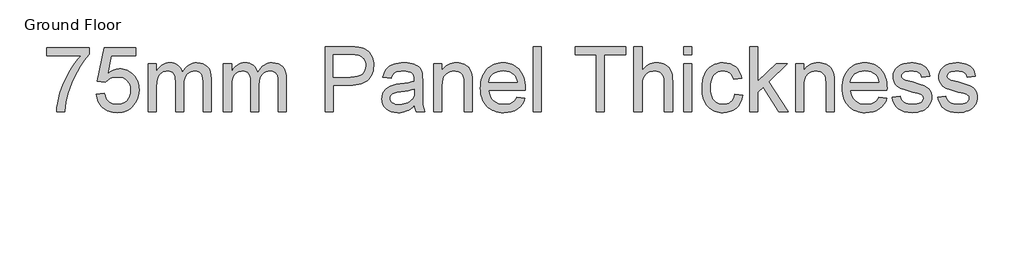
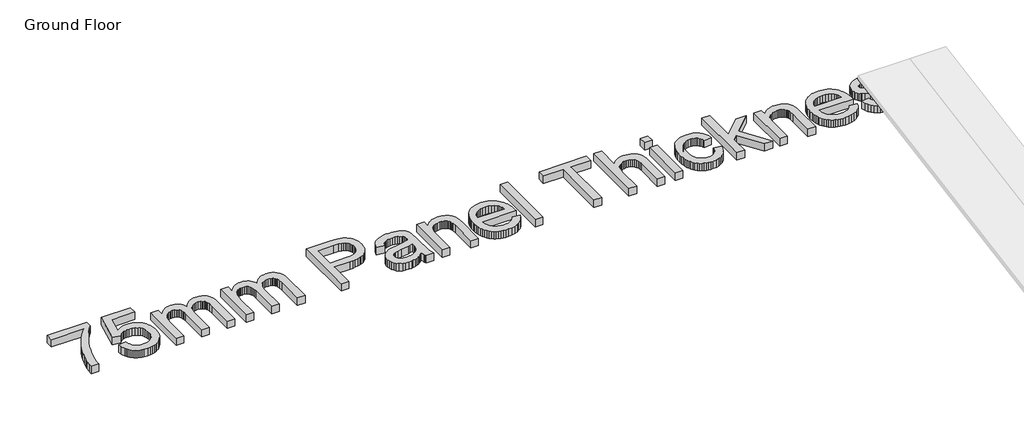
# One storey, part 3 of 5: 1 proxy.
"""IFC4 building model written with IfcOpenShell, lengths in millimetres."""

from ifc_helpers import new_model, si_unit, origin, origin_with_axes, place, context, project, spatial, polyline, outline, extrude, element, save

model = new_model("IFC4")

# Units and contexts
model_context = context("Model", 3, world=origin())
ifc_project = project(units=[si_unit("LENGTHUNIT", "METRE", prefix="MILLI")], contexts=[model_context])

# Site, building, storey
site = spatial("IfcSite", under=ifc_project)
building = spatial("IfcBuilding", under=site)
storey = spatial("IfcBuildingStorey", under=building, Name="Ground Floor", Elevation=0.0)

# Proxy
placement = place(None, origin())
element("IfcBuildingElementProxy", 1, Name="1200mm Arial", ObjectType="1200mm Arial", at=placement, inside=storey, context=model_context, shape_type="SweptSolid", body=[
    extrude(outline(polyline([(-16682.9165846, -36478.8663729), (-16682.9165846, -36331.957282), (-15911.6438573, -36331.957282), (-15911.6438573, -36450.7470547), (-15966.743733, -36515.584679), (-16021.5746102, -36589.87312), (-16076.1364887, -36673.6123778), (-16130.4293687, -36766.8024524), (-16181.512199, -36865.408365), (-16226.4439284, -36965.3951371), (-16265.2245569, -37066.7627685), (-16297.8540846, -37169.5112592), (-16317.2937153, -37244.1314652), (-16332.8597664, -37322.2307195), (-16344.552238, -37403.809022), (-16352.3711301, -37488.8663729), (-16499.280221, -37488.8663729), (-16494.662412, -37416.7209538), (-16483.3913715, -37337.4381058), (-16465.4670995, -37251.0178288), (-16440.889596, -37157.4601229), (-16409.9457927, -37061.2034645), (-16372.9226215, -36966.6863302), (-16329.8200825, -36873.9087202), (-16280.6381755, -36782.8706342), (-16227.5916556, -36696.244125), (-16172.8952778, -36616.701245), (-16116.549042, -36544.2419943), (-16058.5529482, -36478.8663729), (-16682.9165846, -36478.8663729)])), origin_with_axes(), (0.0, 0.0, 1.0), 150.0),
    extrude(outline(polyline([(-15783.0984028, -37176.6845547), (-15636.1893119, -37158.3209183), (-15625.2141698, -37205.5481023), (-15609.217721, -37246.5165859), (-15588.1999653, -37281.2263693), (-15562.1609028, -37309.6774524), (-15531.1543332, -37331.8339687), (-15495.2340562, -37347.6600518), (-15454.4000718, -37357.1557017), (-15408.6523801, -37360.3209183), (-15352.7006755, -37355.9183082), (-15303.3484028, -37342.710478), (-15260.5955619, -37320.6974275), (-15224.4421528, -37289.879157), (-15195.6951713, -37251.7799915), (-15175.161613, -37207.9242564), (-15162.8414781, -37158.3119517), (-15158.7347664, -37102.9430774), (-15162.5814461, -37050.6138871), (-15174.1214852, -37004.095066), (-15193.3548836, -36963.3866143), (-15220.2816414, -36928.488532), (-15254.9914248, -36900.4947464), (-15297.5738999, -36880.4991854), (-15348.0290668, -36868.5018487), (-15406.3569255, -36864.5027365), (-15443.6849617, -36866.0987947), (-15477.6236159, -36870.8869695), (-15508.1728879, -36878.8672606), (-15535.3327778, -36890.0396683), (-15581.4212011, -36919.3784467), (-15617.8256755, -36956.3209183), (-15764.7347664, -36937.957282), (-15636.1893119, -36331.957282), (-15066.9165846, -36331.957282), (-15066.9165846, -36478.8663729), (-15517.3995391, -36478.8663729), (-15580.2376073, -36802.5254638), (-15528.3926144, -36765.3677933), (-15475.2922948, -36738.8266001), (-15420.9366485, -36722.9018842), (-15365.3256755, -36717.5936456), (-15328.8248099, -36719.2390202), (-15293.78102, -36724.1751442), (-15260.1943057, -36732.4020174), (-15228.064667, -36743.9196399), (-15197.392104, -36758.7280117), (-15168.1766166, -36776.8271328), (-15140.4182048, -36798.2170032), (-15114.1168687, -36822.8976229), (-15090.1423703, -36850.1651122), (-15069.3644717, -36879.3155916), (-15051.7831728, -36910.3490611), (-15037.3984738, -36943.2655206), (-15026.2103746, -36978.0649702), (-15018.2188751, -37014.7474098), (-15013.4239754, -37053.3128395), (-15011.8256755, -37093.7612592), (-15017.5822451, -37169.869924), (-15034.8519539, -37240.6703501), (-15063.6348019, -37306.1625376), (-15103.9307891, -37366.3464865), (-15133.1799014, -37399.3660621), (-15164.9755335, -37427.9830277), (-15199.3176855, -37452.1973832), (-15236.2063573, -37472.0091285), (-15275.6415491, -37487.4182638), (-15317.6232607, -37498.4247891), (-15362.1514923, -37505.0287042), (-15409.2262437, -37507.2300092), (-15485.03901, -37501.5720724), (-15520.1948827, -37494.4996514), (-15553.5170818, -37484.5982621), (-15585.0056072, -37471.8679043), (-15614.6604589, -37456.3085781), (-15642.481637, -37437.9202835), (-15668.4691414, -37416.7030206), (-15692.1970578, -37393.1499533), (-15713.2394717, -37367.7542457), (-15731.5963831, -37340.5158979), (-15747.267792, -37311.4349098), (-15770.5541024, -37247.7450128), (-15783.0984028, -37176.6845547)])), origin_with_axes(), (0.0, 0.0, 1.0), 150.0),
    extrude(outline(polyline([(-14846.5529482, -37488.8663729), (-14846.5529482, -36625.7754638), (-14699.6438573, -36625.7754638), (-14699.6438573, -36767.8067138), (-14679.1282323, -36733.4197287), (-14655.4563573, -36702.5655916), (-14628.6282323, -36675.2443025), (-14598.6438573, -36651.4558615), (-14565.9874298, -36632.1865966), (-14531.1431471, -36618.4228359), (-14494.1110093, -36610.1645795), (-14454.8910164, -36607.4118274), (-14412.0126428, -36610.2183793), (-14373.1871812, -36618.6380348), (-14338.4146315, -36632.670794), (-14307.6949937, -36652.316657), (-14281.117934, -36677.0196932), (-14258.7731187, -36706.2239723), (-14240.6605477, -36739.9294943), (-14226.780221, -36778.1362592), (-14200.9473907, -36738.1227205), (-14173.2315704, -36703.4443203), (-14143.63276, -36674.1010586), (-14112.1509596, -36650.0929354), (-14078.7861691, -36631.4199506), (-14043.5383886, -36618.0821044), (-14006.407618, -36610.0793967), (-13967.3938573, -36607.4118274), (-13908.5818012, -36611.850304), (-13856.9609738, -36625.1657337), (-13812.5313751, -36647.3581165), (-13775.2930051, -36678.4274524), (-13745.8555938, -36718.7324062), (-13724.8288715, -36768.6316427), (-13712.2128382, -36828.1251619), (-13708.0074937, -36897.2129638), (-13708.0074937, -37488.8663729), (-13854.9165846, -37488.8663729), (-13854.9165846, -36960.3379638), (-13858.3238999, -36887.0627507), (-13868.545846, -36837.6746115), (-13876.741336, -36819.8579389), (-13887.6985448, -36803.8525234), (-13901.4174724, -36789.658365), (-13917.8981187, -36777.2754638), (-13936.5397203, -36767.2328501), (-13956.7415136, -36760.0595547), (-14001.8256755, -36754.3209183), (-14043.457689, -36757.9972322), (-14081.4133886, -36769.026174), (-14115.6927742, -36787.4077436), (-14146.295846, -36813.141941), (-14171.4651464, -36846.9819623), (-14189.4432181, -36889.6810035), (-14200.2300612, -36941.2390646), (-14203.8256755, -37001.6561456), (-14203.8256755, -37488.8663729), (-14350.7347664, -37488.8663729), (-14350.7347664, -36943.9828501), (-14352.8598552, -36899.4725518), (-14359.2351215, -36860.9160888), (-14369.8605654, -36828.3134609), (-14384.7361869, -36801.6646683), (-14404.4537828, -36780.9517777), (-14429.6051499, -36766.1568558), (-14460.1902884, -36757.2799027), (-14496.2091982, -36754.3209183), (-14525.0637792, -36756.2935746), (-14552.8064994, -36762.2115433), (-14579.4373588, -36772.0748246), (-14604.9563573, -36785.8834183), (-14628.1978346, -36803.4938587), (-14647.9961301, -36824.7626797), (-14664.3512437, -36849.6898814), (-14677.2631755, -36878.2754638), (-14687.0547238, -36912.0437521), (-14694.0486869, -36952.5190717), (-14699.6438573, -37053.5908047), (-14699.6438573, -37488.8663729), (-14846.5529482, -37488.8663729)])), origin_with_axes(), (0.0, 0.0, 1.0), 150.0),
    extrude(outline(polyline([(-13487.6438573, -37488.8663729), (-13487.6438573, -36625.7754638), (-13340.7347664, -36625.7754638), (-13340.7347664, -36767.8067138), (-13320.2191414, -36733.4197287), (-13296.5472664, -36702.5655916), (-13269.7191414, -36675.2443025), (-13239.7347664, -36651.4558615), (-13207.0783389, -36632.1865966), (-13172.2340562, -36618.4228359), (-13135.2019184, -36610.1645795), (-13095.9819255, -36607.4118274), (-13053.1035519, -36610.2183793), (-13014.2780903, -36618.6380348), (-12979.5055406, -36632.670794), (-12948.7859028, -36652.316657), (-12922.2088431, -36677.0196932), (-12899.8640278, -36706.2239723), (-12881.7514568, -36739.9294943), (-12867.8711301, -36778.1362592), (-12842.0382998, -36738.1227205), (-12814.3224795, -36703.4443203), (-12784.7236691, -36674.1010586), (-12753.2418687, -36650.0929354), (-12719.8770782, -36631.4199506), (-12684.6292977, -36618.0821044), (-12647.4985271, -36610.0793967), (-12608.4847664, -36607.4118274), (-12549.6727103, -36611.850304), (-12498.0518829, -36625.1657337), (-12453.6222842, -36647.3581165), (-12416.3839141, -36678.4274524), (-12386.9465029, -36718.7324062), (-12365.9197806, -36768.6316427), (-12353.3037472, -36828.1251619), (-12349.0984028, -36897.2129638), (-12349.0984028, -37488.8663729), (-12496.0074937, -37488.8663729), (-12496.0074937, -36960.3379638), (-12499.414809, -36887.0627507), (-12509.6367551, -36837.6746115), (-12517.8322451, -36819.8579389), (-12528.7894539, -36803.8525234), (-12542.5083815, -36789.658365), (-12558.9890278, -36777.2754638), (-12577.6306293, -36767.2328501), (-12597.8324227, -36760.0595547), (-12642.9165846, -36754.3209183), (-12684.5485981, -36757.9972322), (-12722.5042977, -36769.026174), (-12756.7836833, -36787.4077436), (-12787.3867551, -36813.141941), (-12812.5560555, -36846.9819623), (-12830.5341272, -36889.6810035), (-12841.3209703, -36941.2390646), (-12844.9165846, -37001.6561456), (-12844.9165846, -37488.8663729), (-12991.8256755, -37488.8663729), (-12991.8256755, -36943.9828501), (-12993.9507643, -36899.4725518), (-13000.3260306, -36860.9160888), (-13010.9514745, -36828.3134609), (-13025.827096, -36801.6646683), (-13045.5446918, -36780.9517777), (-13070.696059, -36766.1568558), (-13101.2811975, -36757.2799027), (-13137.3001073, -36754.3209183), (-13166.1546883, -36756.2935746), (-13193.8974085, -36762.2115433), (-13220.5282678, -36772.0748246), (-13246.0472664, -36785.8834183), (-13269.2887437, -36803.4938587), (-13289.0870391, -36824.7626797), (-13305.4421528, -36849.6898814), (-13318.3540846, -36878.2754638), (-13328.1456329, -36912.0437521), (-13335.139596, -36952.5190717), (-13340.7347664, -37053.5908047), (-13340.7347664, -37488.8663729), (-13487.6438573, -37488.8663729)])), origin_with_axes(), (0.0, 0.0, 1.0), 150.0),
    extrude(outline(polyline([(-11651.280221, -37488.8663729), (-11651.280221, -36313.5936456), (-11215.717721, -36313.5936456), (-11114.2873232, -36316.3912308), (-11040.1154482, -36324.7839865), (-10999.2366308, -36333.5981733), (-10961.8189284, -36345.6941427), (-10927.862341, -36361.0718949), (-10897.3668687, -36379.7314297), (-10870.0097132, -36402.0583118), (-10845.4680761, -36428.4381058), (-10823.7419575, -36458.8708118), (-10804.8313573, -36493.3564297), (-10789.5163715, -36530.7561989), (-10778.577096, -36569.9313587), (-10772.0135306, -36610.8819091), (-10769.8256755, -36653.6078501), (-10775.7346776, -36725.7532692), (-10783.1209303, -36759.6605401), (-10793.461684, -36792.1241854), (-10806.7569388, -36823.1442049), (-10823.0066947, -36852.7205987), (-10842.2109516, -36880.8533668), (-10864.3697096, -36907.5425092), (-10890.3841139, -36931.8868807), (-10921.1553097, -36952.9853359), (-10956.6832971, -36970.837875), (-10996.9680761, -36985.4444979), (-11042.0096466, -36996.8052045), (-11091.8080086, -37004.919995), (-11146.3631622, -37009.7888693), (-11205.6751073, -37011.4118274), (-11504.3711301, -37011.4118274), (-11504.3711301, -37488.8663729), (-11651.280221, -37488.8663729)]), holes=[polyline([(-11504.3711301, -36864.5027365), (-11197.0671528, -36864.5027365), (-11126.4101926, -36861.1312876), (-11066.8001073, -36851.016941), (-11018.2368971, -36834.1596967), (-10980.7205619, -36810.5595547), (-10952.7267764, -36780.8441783), (-10932.7312153, -36745.6412308), (-10920.7338786, -36704.9507123), (-10916.7347664, -36658.7726229), (-10919.0929873, -36624.4842706), (-10926.1676499, -36592.7783047), (-10937.9587543, -36563.6547251), (-10954.4663005, -36537.113532), (-10974.8115597, -36514.0155206), (-10998.1158034, -36495.2214865), (-11024.3790313, -36480.7314297), (-11053.6012437, -36470.5453501), (-11110.2702778, -36463.0133899), (-11200.5103346, -36460.5027365), (-11504.3711301, -36460.5027365), (-11504.3711301, -36864.5027365)])]), origin_with_axes(), (0.0, 0.0, 1.0), 150.0),
    extrude(outline(polyline([(-10035.280221, -37378.6845547), (-10070.115537, -37411.3768487), (-10105.470917, -37438.8685035), (-10141.3463609, -37461.1595192), (-10177.7418687, -37478.2498956), (-10215.0699049, -37490.9286953), (-10253.742934, -37499.9849808), (-10293.7609561, -37505.4187521), (-10335.123971, -37507.2300092), (-10400.5354589, -37502.8722322), (-10457.8949227, -37489.7989013), (-10507.2023623, -37468.0100163), (-10548.4577778, -37437.5055774), (-10581.0335058, -37400.2223743), (-10604.3018829, -37358.0971967), (-10618.2629092, -37311.1300447), (-10622.9165846, -37259.3209183), (-10621.1591272, -37228.1708828), (-10615.8867551, -37198.4196399), (-10607.0994681, -37170.0671896), (-10594.7972664, -37143.113532), (-10579.6347132, -37118.1504638), (-10562.2663715, -37095.769782), (-10542.6922416, -37075.9714865), (-10520.9123232, -37058.7555774), (-10472.3132465, -37030.7797251), (-10418.0472664, -37010.551032), (-10365.1800789, -36999.2889581), (-10290.936471, -36988.457282), (-10140.7276641, -36965.2158047), (-10082.7315704, -36952.088674), (-10036.1410164, -36937.957282), (-10035.280221, -36905.2470547), (-10037.8088076, -36869.6316427), (-10045.3945676, -36839.6831342), (-10058.0375008, -36815.4015291), (-10075.7376073, -36796.7868274), (-10106.3317124, -36778.2079922), (-10143.5969823, -36764.9373956), (-10187.533417, -36756.9750376), (-10238.1410164, -36754.3209183), (-10285.1978346, -36756.0873423), (-10325.655221, -36761.3866143), (-10359.5131755, -36770.2187344), (-10386.7716982, -36782.5837024), (-10409.1703133, -36799.4499133), (-10428.4485448, -36821.7857621), (-10444.6063928, -36849.5912486), (-10457.6438573, -36882.8663729), (-10604.5529482, -36864.5027365), (-10593.371574, -36822.1802933), (-10579.0518829, -36784.1618274), (-10561.5938751, -36750.4473388), (-10540.9975505, -36721.0368274), (-10516.3752139, -36695.3384964), (-10486.8391698, -36672.760549), (-10452.3894184, -36653.3029851), (-10413.0259596, -36636.9658047), (-10369.5468225, -36624.0359396), (-10322.7500363, -36614.8003217), (-10272.6356009, -36609.258951), (-10219.2035164, -36607.4118274), (-10166.9729589, -36609.0437521), (-10119.8892409, -36613.9395263), (-10077.9523623, -36622.0991498), (-10041.1623232, -36633.5226229), (-10009.2142586, -36647.4119162), (-9981.8033034, -36662.9690007), (-9958.9294575, -36680.1938764), (-9940.592721, -36699.0865433), (-9925.7260661, -36720.1132656), (-9913.2624653, -36743.7403075), (-9895.5444255, -36798.7953501), (-9890.1644539, -36849.582282), (-9888.3711301, -36927.3408047), (-9888.3711301, -37110.1163729), (-9886.5060732, -37269.3276655), (-9880.9109028, -37365.3422251), (-9869.8640278, -37428.4313587), (-9851.6438573, -37488.8663729), (-9998.5529482, -37488.8663729), (-10011.608346, -37464.3337024), (-10022.0813573, -37437.7925092), (-10035.280221, -37378.6845547)]), holes=[polyline([(-10035.280221, -37084.8663729), (-10079.6829198, -37097.5810391), (-10133.9847664, -37109.3273104), (-10272.2859028, -37129.9146683), (-10348.502167, -37141.1767422), (-10398.6793687, -37153.7300092), (-10431.5689284, -37170.0133899), (-10455.9222664, -37192.4658047), (-10470.9861869, -37219.3656626), (-10476.0074937, -37248.9913729), (-10473.2726748, -37271.8203856), (-10465.0682181, -37292.6767422), (-10451.3941237, -37311.5604425), (-10432.2503914, -37328.4714865), (-10407.8163538, -37342.4056129), (-10378.2713431, -37352.3585604), (-10343.6153595, -37358.3303288), (-10303.8484028, -37360.3209183), (-10263.2475505, -37358.1240966), (-10224.9421528, -37351.5336314), (-10188.9322096, -37340.5495227), (-10155.217721, -37325.1717706), (-10124.8029482, -37306.6736349), (-10098.6921528, -37286.3283757), (-10076.8853346, -37264.1359929), (-10059.3824937, -37240.0964865), (-10049.2143474, -37218.5766001), (-10041.9513857, -37192.4658047), (-10037.5936088, -37161.7641001), (-10036.1410164, -37126.4714865), (-10035.280221, -37084.8663729)])]), origin_with_axes(), (0.0, 0.0, 1.0), 150.0),
    extrude(outline(polyline([(-9686.3711301, -37488.8663729), (-9686.3711301, -36625.7754638), (-9539.4620391, -36625.7754638), (-9539.4620391, -36746.2868274), (-9515.2252671, -36713.7379993), (-9488.424042, -36685.5290149), (-9459.0583637, -36661.6598743), (-9427.1282323, -36642.1305774), (-9392.6336478, -36626.9411243), (-9355.5746102, -36616.0915149), (-9315.9511194, -36609.5817493), (-9273.7631755, -36607.4118274), (-9236.7938041, -36609.1603182), (-9201.3487579, -36614.4057905), (-9167.428037, -36623.1482443), (-9135.0316414, -36635.3876797), (-9105.387998, -36650.4695334), (-9079.7255335, -36667.7392422), (-9058.044248, -36687.1968061), (-9040.3441414, -36708.8422251), (-9013.6236159, -36758.5890291), (-8996.3001073, -36816.8720547), (-8990.489738, -36872.6085604), (-8988.5529482, -36958.9033047), (-8988.5529482, -37488.8663729), (-9135.4620391, -37488.8663729), (-9135.4620391, -36978.7016001), (-9139.6942835, -36902.7364013), (-9144.9845889, -36872.9851584), (-9152.3910164, -36848.7214865), (-9162.4784632, -36828.2865611), (-9175.8118261, -36810.0215575), (-9192.3911052, -36793.9264758), (-9212.2163005, -36780.001316), (-9234.605949, -36768.766142), (-9258.8785874, -36760.7410177), (-9285.034216, -36755.9259432), (-9313.0728346, -36754.3209183), (-9357.6817657, -36757.9254993), (-9399.1165136, -36768.7392422), (-9437.3770782, -36786.762147), (-9472.4634596, -36811.9942138), (-9488.1662517, -36828.0310124), (-9501.7753382, -36847.3047606), (-9513.290719, -36869.8154584), (-9522.7123943, -36895.5631058), (-9535.2746279, -36956.7692493), (-9539.4620391, -37030.923191), (-9539.4620391, -37488.8663729), (-9686.3711301, -37488.8663729)])), origin_with_axes(), (0.0, 0.0, 1.0), 150.0),
    extrude(outline(polyline([(-8182.2745391, -37231.7754638), (-8038.2347664, -37250.1391001), (-8060.3195498, -37307.8303288), (-8090.133559, -37358.6710604), (-8127.6767941, -37402.6612947), (-8172.9492551, -37439.801032), (-8225.4846776, -37469.3012095), (-8284.8167977, -37490.3727649), (-8350.9456151, -37503.0156981), (-8423.8711301, -37507.2300092), (-8470.6903328, -37505.4120272), (-8515.025782, -37499.958081), (-8556.8774777, -37490.8681706), (-8596.2454198, -37478.1422962), (-8633.1296084, -37461.7804576), (-8667.5300434, -37441.7826548), (-8699.4467249, -37418.148888), (-8728.8796528, -37390.879157), (-8755.3087632, -37360.3276433), (-8778.2139923, -37326.8485284), (-8797.5953399, -37290.4418123), (-8813.4528062, -37251.107495), (-8825.7863911, -37208.8455765), (-8834.5960945, -37163.6560568), (-8839.8819166, -37115.5389359), (-8841.6438573, -37064.4942138), (-8839.8639834, -37011.7122092), (-8834.5243616, -36961.9698885), (-8825.6249919, -36915.2672518), (-8813.1658744, -36871.604299), (-8797.147009, -36830.9810302), (-8777.5683957, -36793.3974453), (-8754.4300345, -36758.8535444), (-8727.7319255, -36727.3493274), (-8698.1958815, -36699.2389758), (-8666.5437153, -36674.8766712), (-8632.7754269, -36654.2624133), (-8596.8910164, -36637.3962024), (-8558.8904838, -36624.2780383), (-8518.7738289, -36614.9079212), (-8476.5410519, -36609.2858508), (-8432.1921528, -36607.4118274), (-8389.2936043, -36609.2813675), (-8348.3990953, -36614.8899879), (-8309.5086256, -36624.2376886), (-8272.6221954, -36637.3244695), (-8237.7398046, -36654.1503306), (-8204.8614532, -36674.715272), (-8173.9871412, -36699.0192937), (-8145.1168687, -36727.0623956), (-8118.9903817, -36758.4948796), (-8096.3474262, -36792.9670476), (-8077.1880024, -36830.4788995), (-8061.5121102, -36871.0304354), (-8049.3197496, -36914.6216552), (-8040.6109205, -36961.2525589), (-8035.3856231, -37010.9231467), (-8033.6438573, -37063.6334183), (-8034.5046528, -37103.2300092), (-8694.7347664, -37103.2300092), (-8686.2254447, -37161.8537663), (-8669.305434, -37213.1966285), (-8643.9747345, -37257.2585959), (-8610.233346, -37294.0396683), (-8569.9463254, -37323.0377152), (-8524.9787295, -37343.7506058), (-8475.3305583, -37356.1783402), (-8421.0018119, -37360.3209183), (-8380.3650931, -37358.4020618), (-8342.8128914, -37352.6454922), (-8308.3452068, -37343.0512095), (-8276.9620391, -37329.6192138), (-8248.6633886, -37311.9908402), (-8223.4492551, -37289.807424), (-8201.3196386, -37263.0689652), (-8182.2745391, -37231.7754638)]), holes=[polyline([(-8694.7347664, -36956.3209183), (-8180.5529482, -36956.3209183), (-8188.1028417, -36914.7516712), (-8200.4229766, -36878.7058615), (-8217.5133531, -36848.1834893), (-8239.373971, -36823.1845547), (-8279.4368261, -36793.0567138), (-8325.0231187, -36771.5368274), (-8376.1328488, -36758.6248956), (-8432.7660164, -36754.3209183), (-8484.4227103, -36757.7551335), (-8531.7933602, -36768.0577791), (-8574.877966, -36785.2288551), (-8613.6765278, -36809.2683615), (-8646.2343225, -36839.0644375), (-8670.5966272, -36873.5052223), (-8686.7634418, -36912.5907159), (-8694.7347664, -36956.3209183)])]), origin_with_axes(), (0.0, 0.0, 1.0), 150.0),
    extrude(outline(polyline([(-7886.7347664, -37488.8663729), (-7886.7347664, -36313.5936456), (-7739.8256755, -36313.5936456), (-7739.8256755, -37488.8663729), (-7886.7347664, -37488.8663729)])), origin_with_axes(), (0.0, 0.0, 1.0), 150.0),
    extrude(outline(polyline([(-6748.1893119, -37488.8663729), (-6748.1893119, -36460.5027365), (-7133.8256755, -36460.5027365), (-7133.8256755, -36313.5936456), (-6215.6438573, -36313.5936456), (-6215.6438573, -36460.5027365), (-6601.280221, -36460.5027365), (-6601.280221, -37488.8663729), (-6748.1893119, -37488.8663729)])), origin_with_axes(), (0.0, 0.0, 1.0), 150.0),
    extrude(outline(polyline([(-6068.7347664, -37488.8663729), (-6068.7347664, -36313.5936456), (-5921.8256755, -36313.5936456), (-5921.8256755, -36745.7129638), (-5895.6745303, -36713.2986349), (-5867.8645605, -36685.2062166), (-5838.3957661, -36661.4357088), (-5807.2681471, -36641.9871115), (-5774.4817036, -36626.8604247), (-5740.0364355, -36616.0556484), (-5703.9323428, -36609.5727827), (-5666.1694255, -36607.4118274), (-5620.2424014, -36609.7700483), (-5577.4357607, -36616.8447109), (-5537.7495036, -36628.6358153), (-5501.1836301, -36645.1433615), (-5468.6706684, -36665.811419), (-5441.1431471, -36690.0840575), (-5418.6010661, -36717.961277), (-5401.0444255, -36749.4430774), (-5387.8634951, -36786.4752152), (-5378.4485448, -36831.0034467), (-5372.7995747, -36883.027772), (-5370.9165846, -36942.548191), (-5370.9165846, -37488.8663729), (-5517.8256755, -37488.8663729), (-5517.8256755, -36957.7555774), (-5520.7487934, -36908.1522393), (-5529.5181471, -36865.7939297), (-5544.1337366, -36830.6806484), (-5564.5955619, -36802.8123956), (-5590.4194255, -36781.5973743), (-5621.1211301, -36766.4437876), (-5656.7006755, -36757.3516356), (-5697.1580619, -36754.3209183), (-5728.6757288, -36756.3653075), (-5759.242934, -36762.4984751), (-5788.8596776, -36772.7204212), (-5817.5259596, -36787.0311456), (-5843.6905548, -36804.8388516), (-5865.802238, -36825.5517422), (-5883.8610093, -36849.1698175), (-5897.8668687, -36875.6930774), (-5908.3488467, -36906.3409822), (-5915.8359738, -36942.3329922), (-5920.3282501, -36983.6691072), (-5921.8256755, -37030.3493274), (-5921.8256755, -37488.8663729), (-6068.7347664, -37488.8663729)])), origin_with_axes(), (0.0, 0.0, 1.0), 150.0),
    extrude(outline(polyline([(-5168.9165846, -37488.8663729), (-5168.9165846, -36625.7754638), (-5022.0074937, -36625.7754638), (-5022.0074937, -37488.8663729), (-5168.9165846, -37488.8663729)])), origin_with_axes(), (0.0, 0.0, 1.0), 150.0),
    extrude(outline(polyline([(-5168.9165846, -36460.5027365), (-5168.9165846, -36313.5936456), (-5022.0074937, -36313.5936456), (-5022.0074937, -36460.5027365), (-5168.9165846, -36460.5027365)])), origin_with_axes(), (0.0, 0.0, 1.0), 150.0),
    extrude(outline(polyline([(-4250.7347664, -37176.6845547), (-4103.8256755, -37195.048191), (-4119.8041911, -37264.369125), (-4144.7851926, -37325.7097677), (-4178.7686798, -37379.0701193), (-4221.7546528, -37424.4501797), (-4271.9318545, -37460.6663551), (-4327.4890278, -37486.5350518), (-4388.4261727, -37502.0562699), (-4454.7432891, -37507.2300092), (-4497.0052077, -37505.4254771), (-4537.1375541, -37500.0118807), (-4575.1403284, -37490.98922), (-4611.0135306, -37478.357495), (-4644.7571608, -37462.1167058), (-4676.3712188, -37442.2668523), (-4705.8557048, -37418.8079345), (-4733.2106187, -37391.7399524), (-4757.8576135, -37361.3005215), (-4779.2183424, -37327.7272571), (-4797.2928053, -37291.0201593), (-4812.0810022, -37251.179228), (-4823.5829331, -37208.2044632), (-4831.7985981, -37162.095865), (-4836.7279971, -37112.8534334), (-4838.3711301, -37060.4771683), (-4835.5645782, -36992.931625), (-4827.1449227, -36929.7438587), (-4813.1121634, -36870.9138693), (-4793.4663005, -36816.441657), (-4768.0728346, -36767.4211491), (-4736.7972664, -36724.9462734), (-4699.639596, -36689.0170298), (-4656.5998232, -36659.6334183), (-4609.6237046, -36636.7864723), (-4560.6569965, -36620.4672251), (-4509.699699, -36610.6756768), (-4456.7518119, -36607.4118274), (-4391.5734561, -36611.8951371), (-4332.617934, -36625.345066), (-4279.8852458, -36647.7616143), (-4233.3753914, -36679.144782), (-4193.8774333, -36718.7772393), (-4162.180434, -36765.941657), (-4138.2843936, -36820.6380348), (-4122.1893119, -36882.8663729), (-4269.0984028, -36901.2300092), (-4280.5667089, -36866.9147571), (-4295.7471954, -36837.1366143), (-4314.6398623, -36811.895581), (-4337.2447096, -36791.191657), (-4362.9878737, -36775.0607088), (-4391.2954909, -36763.538603), (-4422.1675612, -36756.6253395), (-4455.6040846, -36754.3209183), (-4505.5212543, -36758.8580277), (-4550.5426499, -36772.4693558), (-4590.6682714, -36795.1549027), (-4625.8981187, -36826.9146683), (-4641.2646626, -36846.3811989), (-4654.5823339, -36868.4839155), (-4675.071059, -36920.597907), (-4687.3642941, -36983.2566427), (-4691.4620391, -37056.4601229), (-4687.4539603, -37130.7664971), (-4675.4297238, -37194.1515291), (-4655.3893296, -37246.6152187), (-4642.3630734, -37268.7515602), (-4627.3327778, -37288.157566), (-4592.8023268, -37319.7290327), (-4553.3402352, -37342.2800802), (-4508.9465029, -37355.8107088), (-4459.6211301, -37360.3209183), (-4419.8721066, -37357.5053998), (-4383.5483318, -37349.0588445), (-4350.6498055, -37334.9812521), (-4321.1765278, -37315.2726229), (-4295.9534276, -37289.7177578), (-4275.805434, -37258.1014581), (-4260.732547, -37220.4237237), (-4250.7347664, -37176.6845547)])), origin_with_axes(), (0.0, 0.0, 1.0), 150.0),
    extrude(outline(polyline([(-3975.280221, -37488.8663729), (-3975.280221, -36313.5936456), (-3828.3711301, -36313.5936456), (-3828.3711301, -36945.1305774), (-3498.9734028, -36625.7754638), (-3295.8256755, -36625.7754638), (-3629.2404482, -36949.1476229), (-3277.4620391, -37488.8663729), (-3449.0472664, -37488.8663729), (-3734.5444255, -37051.2953501), (-3828.3711301, -37142.2527365), (-3828.3711301, -37488.8663729), (-3975.280221, -37488.8663729)])), origin_with_axes(), (0.0, 0.0, 1.0), 150.0),
    extrude(outline(polyline([(-3148.9165846, -37488.8663729), (-3148.9165846, -36625.7754638), (-3002.0074937, -36625.7754638), (-3002.0074937, -36746.2868274), (-2977.7707217, -36713.7379993), (-2950.9694965, -36685.5290149), (-2921.6038183, -36661.6598743), (-2889.6736869, -36642.1305774), (-2855.1791024, -36626.9411243), (-2818.1200647, -36616.0915149), (-2778.496574, -36609.5817493), (-2736.3086301, -36607.4118274), (-2699.3392586, -36609.1603182), (-2663.8942124, -36614.4057905), (-2629.9734916, -36623.1482443), (-2597.577096, -36635.3876797), (-2567.9334525, -36650.4695334), (-2542.270988, -36667.7392422), (-2520.5897025, -36687.1968061), (-2502.889596, -36708.8422251), (-2476.1690704, -36758.5890291), (-2458.8455619, -36816.8720547), (-2453.0351926, -36872.6085604), (-2451.0984028, -36958.9033047), (-2451.0984028, -37488.8663729), (-2598.0074937, -37488.8663729), (-2598.0074937, -36978.7016001), (-2602.239738, -36902.7364013), (-2607.5300434, -36872.9851584), (-2614.936471, -36848.7214865), (-2625.0239177, -36828.2865611), (-2638.3572806, -36810.0215575), (-2654.9365597, -36793.9264758), (-2674.7617551, -36780.001316), (-2697.1514035, -36768.766142), (-2721.424042, -36760.7410177), (-2747.5796705, -36755.9259432), (-2775.6182891, -36754.3209183), (-2820.2272203, -36757.9254993), (-2861.6619681, -36768.7392422), (-2899.9225328, -36786.762147), (-2935.0089141, -36811.9942138), (-2950.7117062, -36828.0310124), (-2964.3207927, -36847.3047606), (-2975.8361736, -36869.8154584), (-2985.2578488, -36895.5631058), (-2997.8200825, -36956.7692493), (-3002.0074937, -37030.923191), (-3002.0074937, -37488.8663729), (-3148.9165846, -37488.8663729)])), origin_with_axes(), (0.0, 0.0, 1.0), 150.0),
    extrude(outline(polyline([(-1644.8199937, -37231.7754638), (-1500.780221, -37250.1391001), (-1522.8650043, -37307.8303288), (-1552.6790136, -37358.6710604), (-1590.2222487, -37402.6612947), (-1635.4947096, -37439.801032), (-1688.0301322, -37469.3012095), (-1747.3622522, -37490.3727649), (-1813.4910697, -37503.0156981), (-1886.4165846, -37507.2300092), (-1933.2357874, -37505.4120272), (-1977.5712366, -37499.958081), (-2019.4229323, -37490.8681706), (-2058.7908744, -37478.1422962), (-2095.6750629, -37461.7804576), (-2130.075498, -37441.7826548), (-2161.9921794, -37418.148888), (-2191.4251073, -37390.879157), (-2217.8542178, -37360.3276433), (-2240.7594468, -37326.8485284), (-2260.1407945, -37290.4418123), (-2275.9982607, -37251.107495), (-2288.3318456, -37208.8455765), (-2297.1415491, -37163.6560568), (-2302.4273712, -37115.5389359), (-2304.1893119, -37064.4942138), (-2302.4094379, -37011.7122092), (-2297.0698161, -36961.9698885), (-2288.1704465, -36915.2672518), (-2275.7113289, -36871.604299), (-2259.6924635, -36830.9810302), (-2240.1138502, -36793.3974453), (-2216.9754891, -36758.8535444), (-2190.2773801, -36727.3493274), (-2160.741336, -36699.2389758), (-2129.0891698, -36674.8766712), (-2095.3208815, -36654.2624133), (-2059.436471, -36637.3962024), (-2021.4359383, -36624.2780383), (-1981.3192835, -36614.9079212), (-1939.0865065, -36609.2858508), (-1894.7376073, -36607.4118274), (-1851.8390589, -36609.2813675), (-1810.9445498, -36614.8899879), (-1772.0540802, -36624.2376886), (-1735.1676499, -36637.3244695), (-1700.2852591, -36654.1503306), (-1667.4069078, -36674.715272), (-1636.5325958, -36699.0192937), (-1607.6623232, -36727.0623956), (-1581.5358362, -36758.4948796), (-1558.8928808, -36792.9670476), (-1539.7334569, -36830.4788995), (-1524.0575647, -36871.0304354), (-1511.8652041, -36914.6216552), (-1503.1563751, -36961.2525589), (-1497.9310777, -37010.9231467), (-1496.1893119, -37063.6334183), (-1497.0501073, -37103.2300092), (-2157.280221, -37103.2300092), (-2148.7708992, -37161.8537663), (-2131.8508886, -37213.1966285), (-2106.520189, -37257.2585959), (-2072.7788005, -37294.0396683), (-2032.4917799, -37323.0377152), (-1987.524184, -37343.7506058), (-1937.8760129, -37356.1783402), (-1883.5472664, -37360.3209183), (-1842.9105477, -37358.4020618), (-1805.358346, -37352.6454922), (-1770.8906613, -37343.0512095), (-1739.5074937, -37329.6192138), (-1711.2088431, -37311.9908402), (-1685.9947096, -37289.807424), (-1663.8650931, -37263.0689652), (-1644.8199937, -37231.7754638)]), holes=[polyline([(-2157.280221, -36956.3209183), (-1643.0984028, -36956.3209183), (-1650.6482963, -36914.7516712), (-1662.9684312, -36878.7058615), (-1680.0588076, -36848.1834893), (-1701.9194255, -36823.1845547), (-1741.9822806, -36793.0567138), (-1787.5685732, -36771.5368274), (-1838.6783034, -36758.6248956), (-1895.311471, -36754.3209183), (-1946.9681649, -36757.7551335), (-1994.3388147, -36768.0577791), (-2037.4234205, -36785.2288551), (-2076.2219823, -36809.2683615), (-2108.7797771, -36839.0644375), (-2133.1420818, -36873.5052223), (-2149.3088964, -36912.5907159), (-2157.280221, -36956.3209183)])]), origin_with_axes(), (0.0, 0.0, 1.0), 150.0),
    extrude(outline(polyline([(-1404.3711301, -37231.7754638), (-1257.4620391, -37213.4118274), (-1248.585086, -37246.9111172), (-1234.2922948, -37276.2498956), (-1214.5836656, -37301.4281626), (-1189.4591982, -37322.4459183), (-1158.8471599, -37339.0162308), (-1122.6758176, -37350.8521683), (-1080.9451713, -37357.9537308), (-1033.655221, -37360.3209183), (-986.4190704, -37358.1509964), (-945.7106187, -37351.6412308), (-911.5298659, -37340.7916214), (-883.8768119, -37325.6021683), (-862.5362579, -37307.4895973), (-847.2930051, -37287.8706342), (-838.1470534, -37266.7452791), (-835.0984028, -37244.113532), (-838.1649866, -37224.27937), (-847.364738, -37206.6689297), (-862.697657, -37191.2822109), (-884.1637437, -37178.1192138), (-939.1829198, -37159.4686456), (-1035.3768119, -37136.2271683), (-1169.4457039, -37097.4555064), (-1256.6012437, -37064.3507479), (-1286.5228524, -37047.7535355), (-1312.5888147, -37028.2332052), (-1334.7991308, -37005.7897571), (-1353.1538005, -36980.423191), (-1367.5272913, -36952.8956697), (-1377.7940704, -36923.9693558), (-1383.9541379, -36893.6442493), (-1386.0074937, -36861.9203501), (-1384.3576357, -36832.9133366), (-1379.4080619, -36805.0002507), (-1371.1587721, -36778.1810923), (-1359.6097664, -36752.4558615), (-1345.2093758, -36728.3446221), (-1328.4059312, -36706.3674382), (-1309.1994326, -36686.5243096), (-1287.5898801, -36668.8152365), (-1247.0248943, -36645.179228), (-1194.1935732, -36625.345066), (-1133.1129624, -36611.8951371), (-1067.8001073, -36607.4118274), (-1018.4299014, -36609.2141179), (-972.1800789, -36614.6209893), (-929.05064, -36623.6324418), (-889.0415846, -36636.2484751), (-853.1033744, -36651.9400589), (-822.186471, -36670.1781626), (-796.2908744, -36690.9627862), (-775.4165846, -36714.2939297), (-758.4876073, -36740.9875554), (-744.4279482, -36771.8596257), (-733.2376073, -36806.9101406), (-724.9165846, -36846.1391001), (-871.8256755, -36864.5027365), (-878.8286052, -36839.9610994), (-890.3686443, -36818.2708473), (-906.4457927, -36799.4319801), (-927.0600505, -36783.4444979), (-952.3010839, -36770.7029318), (-982.258559, -36761.6018132), (-1016.9324759, -36756.141142), (-1056.3228346, -36754.3209183), (-1102.0167266, -36756.0604425), (-1140.6807891, -36761.2790149), (-1172.3150221, -36769.9766356), (-1196.9194255, -36782.1533047), (-1215.3727281, -36796.6433615), (-1228.5536585, -36812.2811456), (-1236.4622167, -36829.066657), (-1239.0984028, -36846.9998956), (-1234.7226926, -36869.5957763), (-1221.5955619, -36889.7527365), (-1199.1431471, -36907.7577081), (-1166.7915846, -36922.176032), (-1040.2546528, -36953.4516001), (-910.4538715, -36991.8287308), (-824.6253914, -37022.6021683), (-794.4258176, -37037.6122891), (-767.6694255, -37055.6710604), (-744.3562153, -37076.7784822), (-724.4861869, -37100.9345547), (-708.6063041, -37128.1751442), (-697.2635306, -37158.5361172), (-690.4578666, -37192.0174737), (-688.1893119, -37228.6192138), (-690.8523978, -37265.382353), (-698.8416556, -37301.0694979), (-712.1570853, -37335.6806484), (-730.7986869, -37369.2158047), (-754.4615953, -37400.3389403), (-782.8409454, -37427.7140291), (-815.9367373, -37451.341071), (-853.748971, -37471.220066), (-895.2464852, -37486.9744162), (-939.3981187, -37498.2275234), (-986.2038715, -37504.9793878), (-1035.6637437, -37507.2300092), (-1114.7313928, -37502.8901655), (-1183.7922948, -37489.8706342), (-1242.8464497, -37468.1714155), (-1291.8938573, -37437.7925092), (-1331.9567124, -37398.8773814), (-1364.0572096, -37351.5694979), (-1388.1953488, -37295.8688587), (-1404.3711301, -37231.7754638)])), origin_with_axes(), (0.0, 0.0, 1.0), 150.0),
    extrude(outline(polyline([(-578.0074937, -37231.7754638), (-431.0984028, -37213.4118274), (-422.2214497, -37246.9111172), (-407.9286585, -37276.2498956), (-388.2200292, -37301.4281626), (-363.0955619, -37322.4459183), (-332.4835235, -37339.0162308), (-296.3121812, -37350.8521683), (-254.5815349, -37357.9537308), (-207.2915846, -37360.3209183), (-160.055434, -37358.1509964), (-119.3469823, -37351.6412308), (-85.1662295, -37340.7916214), (-57.5131755, -37325.6021683), (-36.1726215, -37307.4895973), (-20.9293687, -37287.8706342), (-11.783417, -37266.7452791), (-8.7347664, -37244.113532), (-11.8013502, -37224.27937), (-21.0011016, -37206.6689297), (-36.3340207, -37191.2822109), (-57.8001073, -37178.1192138), (-112.8192835, -37159.4686456), (-209.0131755, -37136.2271683), (-343.0820676, -37097.4555064), (-430.2376073, -37064.3507479), (-460.159216, -37047.7535355), (-486.2251784, -37028.2332052), (-508.4354944, -37005.7897571), (-526.7901641, -36980.423191), (-541.1636549, -36952.8956697), (-551.430434, -36923.9693558), (-557.5905015, -36893.6442493), (-559.6438573, -36861.9203501), (-557.9939994, -36832.9133366), (-553.0444255, -36805.0002507), (-544.7951357, -36778.1810923), (-533.2461301, -36752.4558615), (-518.8457394, -36728.3446221), (-502.0422948, -36706.3674382), (-482.8357963, -36686.5243096), (-461.2262437, -36668.8152365), (-420.6612579, -36645.179228), (-367.8299369, -36625.345066), (-306.7493261, -36611.8951371), (-241.436471, -36607.4118274), (-192.066265, -36609.2141179), (-145.8164426, -36614.6209893), (-102.6870036, -36623.6324418), (-62.6779482, -36636.2484751), (-26.739738, -36651.9400589), (4.1771654, -36670.1781626), (30.072762, -36690.9627862), (50.9470518, -36714.2939297), (67.876029, -36740.9875554), (81.9356881, -36771.8596257), (93.126029, -36806.9101406), (101.4470518, -36846.1391001), (-45.4620391, -36864.5027365), (-52.4649688, -36839.9610994), (-64.0050079, -36818.2708473), (-80.0821563, -36799.4319801), (-100.6964141, -36783.4444979), (-125.9374475, -36770.7029318), (-155.8949227, -36761.6018132), (-190.5688396, -36756.141142), (-229.9591982, -36754.3209183), (-275.6530903, -36756.0604425), (-314.3171528, -36761.2790149), (-345.9513857, -36769.9766356), (-370.5557891, -36782.1533047), (-389.0090917, -36796.6433615), (-402.1900221, -36812.2811456), (-410.0985803, -36829.066657), (-412.7347664, -36846.9998956), (-408.3590562, -36869.5957763), (-395.2319255, -36889.7527365), (-372.7795107, -36907.7577081), (-340.4279482, -36922.176032), (-213.8910164, -36953.4516001), (-84.0902352, -36991.8287308), (1.7382449, -37022.6021683), (31.9378188, -37037.6122891), (58.6942109, -37055.6710604), (82.0074211, -37076.7784822), (101.8774495, -37100.9345547), (117.7573323, -37128.1751442), (129.1001057, -37158.5361172), (135.9057698, -37192.0174737), (138.1743245, -37228.6192138), (135.5112385, -37265.382353), (127.5219807, -37301.0694979), (114.206551, -37335.6806484), (95.5649495, -37369.2158047), (71.9020411, -37400.3389403), (43.522691, -37427.7140291), (10.4268991, -37451.341071), (-27.3853346, -37471.220066), (-68.8828488, -37486.9744162), (-113.0344823, -37498.2275234), (-159.8402352, -37504.9793878), (-209.3001073, -37507.2300092), (-288.3677565, -37502.8901655), (-357.4286585, -37489.8706342), (-416.4828133, -37468.1714155), (-465.530221, -37437.7925092), (-505.5930761, -37398.8773814), (-537.6935732, -37351.5694979), (-561.8317124, -37295.8688587), (-578.0074937, -37231.7754638)])), origin_with_axes(), (0.0, 0.0, 1.0), 150.0),
])

save(model, "model.ifc")
